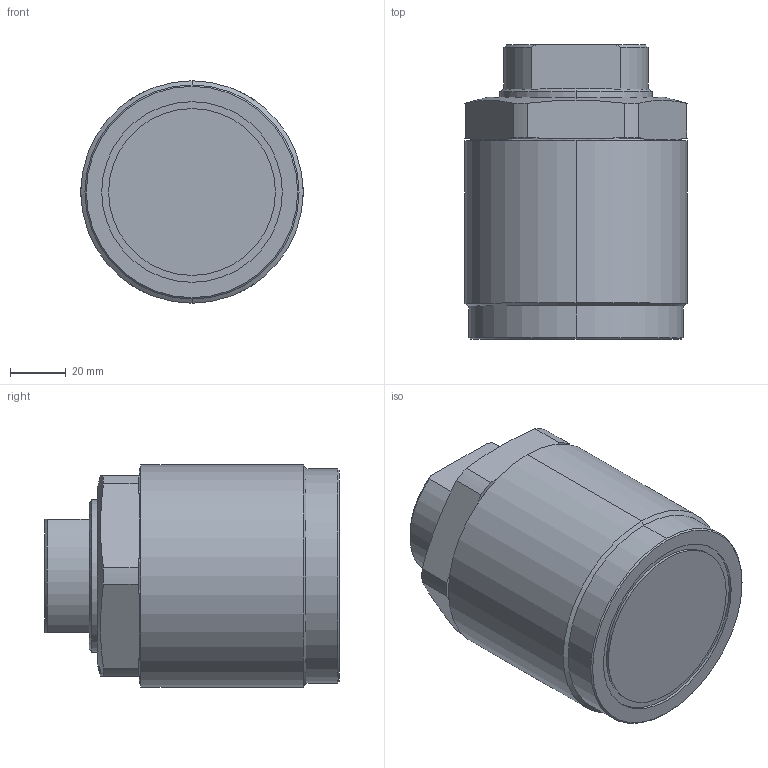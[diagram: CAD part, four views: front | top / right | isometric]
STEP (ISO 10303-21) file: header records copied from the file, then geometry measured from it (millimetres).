
FILE_DESCRIPTION (( 'STEP AP203' ), '1' );
FILE_NAME ('T03C-M808-M threaded pushe.STEP', '2022-07-09T17:48:27', ( '' ), ( '' ), 'SwSTEP 2.0', 'SolidWorks 2017', '' );
FILE_SCHEMA (( 'CONFIG_CONTROL_DESIGN' ));
Length unit declared in the file: millimetre
Products named in the file (3): T03C-M808-M part-2; T03C-M808-M threaded pushe; T03C-M808-M part-1
Assembly tree (2 placements, depth 2):
  T03C-M808-M threaded pushe
    T03C-M808-M part-1
    T03C-M808-M part-2
Bounding box: 80 x 106 x 80 mm (x, y, z)
Volume: 600124.2 mm3; surface area: 50930.6 mm2
Topology: 2 solids, 2 shells, 268 faces, 700 edges, 461 vertices
Faces by surface type: plane 123, bspline 105, cylinder 22, cone 18
Entity records: 14094 total; most frequent: CARTESIAN_POINT 7994, ORIENTED_EDGE 1396, DIRECTION 829, EDGE_CURVE 698, VERTEX_POINT 461, VECTOR 361, LINE 361, EDGE_LOOP 295
